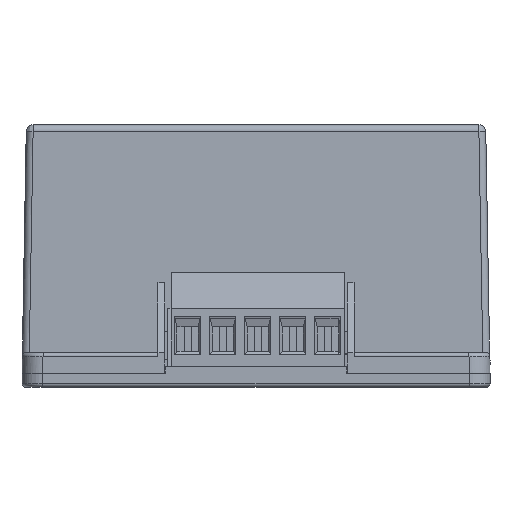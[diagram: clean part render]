
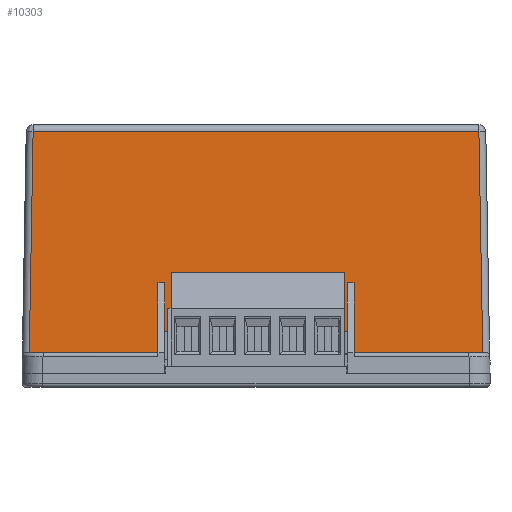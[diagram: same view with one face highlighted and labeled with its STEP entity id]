
A CAD part, front view. The second image highlights one B-rep face of the part: STEP entity #10303.
In plain terms, the highlighted planar face has unit normal (0, -1, 0.018).
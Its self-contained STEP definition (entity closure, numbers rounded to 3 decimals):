
#325 = LINE ( 'NONE', #15403, #19955 ) ;
#432 = LINE ( 'NONE', #26960, #11571 ) ;
#1345 = VERTEX_POINT ( 'NONE', #10689 ) ;
#1375 = CARTESIAN_POINT ( 'NONE',  ( -32.289, -45.441, 35.017 ) ) ;
#1643 = LINE ( 'NONE', #24159, #12115 ) ;
#1880 = CARTESIAN_POINT ( 'NONE',  ( -14.2, -45.823, 13.124 ) ) ;
#1889 = EDGE_CURVE ( 'NONE', #22135, #1345, #22803, .T. ) ;
#2320 = CARTESIAN_POINT ( 'NONE',  ( 33.9, -46., 3. ) ) ;
#2339 = EDGE_CURVE ( 'NONE', #24281, #17232, #14304, .T. ) ;
#2713 = CARTESIAN_POINT ( 'NONE',  ( 33.9, -45.441, 35.017 ) ) ;
#2890 = DIRECTION ( 'NONE',  ( -0.017, 0.017, 1. ) ) ;
#3246 = DIRECTION ( 'NONE',  ( 1., 0., 0. ) ) ;
#3328 = CARTESIAN_POINT ( 'NONE',  ( 13.2, -46., 3. ) ) ;
#3365 = FACE_OUTER_BOUND ( 'NONE', #5170, .T. ) ;
#3611 = VECTOR ( 'NONE', #20087, 1000. ) ;
#3635 = CARTESIAN_POINT ( 'NONE',  ( -13.2, -45.823, 13.124 ) ) ;
#3667 = VERTEX_POINT ( 'NONE', #3635 ) ;
#3726 = EDGE_CURVE ( 'NONE', #24001, #20897, #1643, .T. ) ;
#3731 = EDGE_CURVE ( 'NONE', #19454, #20702, #17631, .T. ) ;
#4374 = VERTEX_POINT ( 'NONE', #10894 ) ;
#4419 = DIRECTION ( 'NONE',  ( 0., -1., 0.017 ) ) ;
#4528 = VECTOR ( 'NONE', #13409, 1000. ) ;
#5170 = EDGE_LOOP ( 'NONE', ( #18889, #23119, #13288, #8499, #16464, #16812, #19554, #23186, #15155, #26839, #21687, #20018 ) ) ;
#5467 = DIRECTION ( 'NONE',  ( 0., 0.017, 1. ) ) ;
#5486 = CARTESIAN_POINT ( 'NONE',  ( 14.2, -46., 3. ) ) ;
#5596 = VECTOR ( 'NONE', #15839, 1000. ) ;
#5671 = VECTOR ( 'NONE', #17876, 1000. ) ;
#5982 = CARTESIAN_POINT ( 'NONE',  ( 14.2, -46., 3. ) ) ;
#6292 = LINE ( 'NONE', #2713, #5671 ) ;
#6554 = LINE ( 'NONE', #15757, #17678 ) ;
#8499 = ORIENTED_EDGE ( 'NONE', *, *, #13318, .T. ) ;
#8881 = VERTEX_POINT ( 'NONE', #26270 ) ;
#9211 = CARTESIAN_POINT ( 'NONE',  ( -13.7, -45.823, 13.124 ) ) ;
#9410 = EDGE_CURVE ( 'NONE', #1345, #4374, #325, .T. ) ;
#10039 = CARTESIAN_POINT ( 'NONE',  ( 14.2, -45.823, 13.124 ) ) ;
#10111 = LINE ( 'NONE', #9211, #4528 ) ;
#10183 = DIRECTION ( 'NONE',  ( 0., -0.017, -1. ) ) ;
#10303 = ADVANCED_FACE ( 'NONE', ( #3365 ), #14849, .T. ) ;
#10689 = CARTESIAN_POINT ( 'NONE',  ( 32.848, -46., 3. ) ) ;
#10894 = CARTESIAN_POINT ( 'NONE',  ( 32.289, -45.441, 35.017 ) ) ;
#11123 = LINE ( 'NONE', #3328, #5596 ) ;
#11571 = VECTOR ( 'NONE', #14488, 1000. ) ;
#11821 = CARTESIAN_POINT ( 'NONE',  ( 13.2, -45.823, 13.124 ) ) ;
#12115 = VECTOR ( 'NONE', #5467, 1000. ) ;
#12441 = EDGE_CURVE ( 'NONE', #3667, #19454, #432, .T. ) ;
#13288 = ORIENTED_EDGE ( 'NONE', *, *, #18717, .T. ) ;
#13318 = EDGE_CURVE ( 'NONE', #8881, #24001, #6554, .T. ) ;
#13409 = DIRECTION ( 'NONE',  ( -1., 0., 0. ) ) ;
#14304 = LINE ( 'NONE', #21599, #19165 ) ;
#14488 = DIRECTION ( 'NONE',  ( 0., -0.017, -1. ) ) ;
#14559 = AXIS2_PLACEMENT_3D ( 'NONE', #2320, #4419, #19054 ) ;
#14849 = PLANE ( 'NONE',  #14559 ) ;
#15155 = ORIENTED_EDGE ( 'NONE', *, *, #22597, .T. ) ;
#15403 = CARTESIAN_POINT ( 'NONE',  ( 32.848, -46., 3. ) ) ;
#15685 = EDGE_CURVE ( 'NONE', #24281, #22135, #16746, .T. ) ;
#15757 = CARTESIAN_POINT ( 'NONE',  ( 33.9, -46., 3. ) ) ;
#15839 = DIRECTION ( 'NONE',  ( 0., 0.017, 1. ) ) ;
#15847 = CARTESIAN_POINT ( 'NONE',  ( 13.2, -45.948, 6. ) ) ;
#16097 = VECTOR ( 'NONE', #10183, 1000. ) ;
#16464 = ORIENTED_EDGE ( 'NONE', *, *, #3726, .T. ) ;
#16746 = LINE ( 'NONE', #5982, #16097 ) ;
#16812 = ORIENTED_EDGE ( 'NONE', *, *, #19849, .F. ) ;
#17232 = VERTEX_POINT ( 'NONE', #11821 ) ;
#17412 = DIRECTION ( 'NONE',  ( -1., 0., 0. ) ) ;
#17631 = LINE ( 'NONE', #17958, #3611 ) ;
#17678 = VECTOR ( 'NONE', #3246, 1000. ) ;
#17876 = DIRECTION ( 'NONE',  ( -1., 0., 0. ) ) ;
#17883 = DIRECTION ( 'NONE',  ( 1., 0., 0. ) ) ;
#17958 = CARTESIAN_POINT ( 'NONE',  ( 13.2, -45.948, 6. ) ) ;
#18717 = EDGE_CURVE ( 'NONE', #26581, #8881, #23301, .T. ) ;
#18889 = ORIENTED_EDGE ( 'NONE', *, *, #9410, .T. ) ;
#19054 = DIRECTION ( 'NONE',  ( 0., -0.017, -1. ) ) ;
#19165 = VECTOR ( 'NONE', #17412, 1000. ) ;
#19454 = VERTEX_POINT ( 'NONE', #22570 ) ;
#19554 = ORIENTED_EDGE ( 'NONE', *, *, #12441, .T. ) ;
#19849 = EDGE_CURVE ( 'NONE', #3667, #20897, #10111, .T. ) ;
#19955 = VECTOR ( 'NONE', #2890, 1000. ) ;
#20018 = ORIENTED_EDGE ( 'NONE', *, *, #1889, .T. ) ;
#20087 = DIRECTION ( 'NONE',  ( 1., 0., 0. ) ) ;
#20702 = VERTEX_POINT ( 'NONE', #15847 ) ;
#20897 = VERTEX_POINT ( 'NONE', #1880 ) ;
#21131 = CARTESIAN_POINT ( 'NONE',  ( -32.289, -45.441, 35.017 ) ) ;
#21599 = CARTESIAN_POINT ( 'NONE',  ( 13.7, -45.823, 13.124 ) ) ;
#21687 = ORIENTED_EDGE ( 'NONE', *, *, #15685, .T. ) ;
#21812 = CARTESIAN_POINT ( 'NONE',  ( -14.2, -46., 3. ) ) ;
#22135 = VERTEX_POINT ( 'NONE', #5486 ) ;
#22162 = VECTOR ( 'NONE', #17883, 1000. ) ;
#22570 = CARTESIAN_POINT ( 'NONE',  ( -13.2, -45.948, 6. ) ) ;
#22597 = EDGE_CURVE ( 'NONE', #20702, #17232, #11123, .T. ) ;
#22687 = VECTOR ( 'NONE', #23208, 1000. ) ;
#22803 = LINE ( 'NONE', #26170, #22162 ) ;
#23119 = ORIENTED_EDGE ( 'NONE', *, *, #26908, .T. ) ;
#23186 = ORIENTED_EDGE ( 'NONE', *, *, #3731, .T. ) ;
#23208 = DIRECTION ( 'NONE',  ( -0.017, -0.017, -1. ) ) ;
#23301 = LINE ( 'NONE', #21131, #22687 ) ;
#24001 = VERTEX_POINT ( 'NONE', #21812 ) ;
#24159 = CARTESIAN_POINT ( 'NONE',  ( -14.2, -46., 3. ) ) ;
#24281 = VERTEX_POINT ( 'NONE', #10039 ) ;
#26170 = CARTESIAN_POINT ( 'NONE',  ( 33.9, -46., 3. ) ) ;
#26270 = CARTESIAN_POINT ( 'NONE',  ( -32.848, -46., 3. ) ) ;
#26581 = VERTEX_POINT ( 'NONE', #1375 ) ;
#26839 = ORIENTED_EDGE ( 'NONE', *, *, #2339, .F. ) ;
#26908 = EDGE_CURVE ( 'NONE', #4374, #26581, #6292, .T. ) ;
#26960 = CARTESIAN_POINT ( 'NONE',  ( -13.2, -46., 3. ) ) ;
